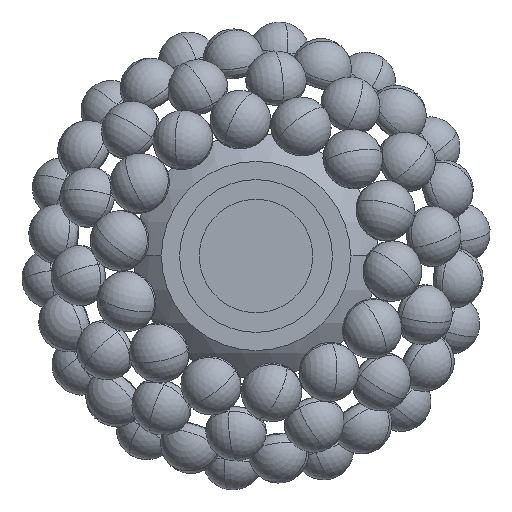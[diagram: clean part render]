
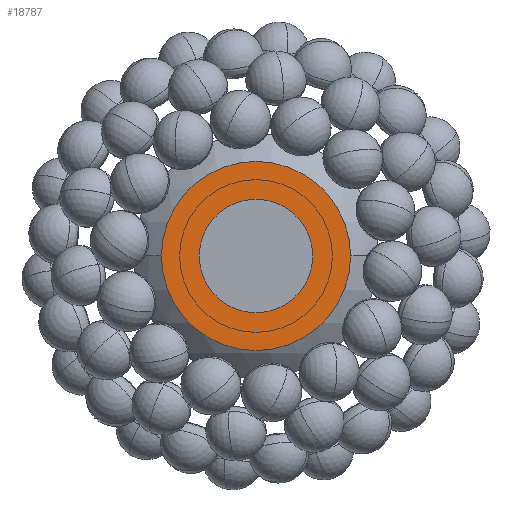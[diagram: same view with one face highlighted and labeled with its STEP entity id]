
A CAD part, front view. The second image highlights one B-rep face of the part: STEP entity #18787.
In plain terms, the highlighted planar face has unit normal (0, -1, 0).
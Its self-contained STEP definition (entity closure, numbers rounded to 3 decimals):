
#715 = CARTESIAN_POINT ( 'NONE',  ( -37.5, -2., 0. ) ) ;
#2823 = EDGE_CURVE ( 'NONE', #18981, #21993, #19080, .T. ) ;
#7017 = ORIENTED_EDGE ( 'NONE', *, *, #32875, .T. ) ;
#7278 = AXIS2_PLACEMENT_3D ( 'NONE', #715, #33391, #15383 ) ;
#7752 = CIRCLE ( 'NONE', #15378, 37.5 ) ;
#7811 = VERTEX_POINT ( 'NONE', #19628 ) ;
#9508 = VERTEX_POINT ( 'NONE', #33926 ) ;
#9578 = ORIENTED_EDGE ( 'NONE', *, *, #2823, .F. ) ;
#10859 = DIRECTION ( 'NONE',  ( 0., 1., 0. ) ) ;
#11588 = CIRCLE ( 'NONE', #16657, 62.5 ) ;
#14395 = FACE_OUTER_BOUND ( 'NONE', #19142, .T. ) ;
#14604 = EDGE_CURVE ( 'NONE', #21993, #18981, #11588, .T. ) ;
#15116 = CARTESIAN_POINT ( 'NONE',  ( 0., -2., 0. ) ) ;
#15378 = AXIS2_PLACEMENT_3D ( 'NONE', #32824, #22944, #30291 ) ;
#15383 = DIRECTION ( 'NONE',  ( 0., 0., 1. ) ) ;
#15729 = CARTESIAN_POINT ( 'NONE',  ( 0., -2., -62.5 ) ) ;
#15917 = EDGE_LOOP ( 'NONE', ( #7017, #30582 ) ) ;
#16657 = AXIS2_PLACEMENT_3D ( 'NONE', #27227, #35565, #24212 ) ;
#18787 = ADVANCED_FACE ( 'NONE', ( #14395, #24446 ), #21286, .F. ) ;
#18981 = VERTEX_POINT ( 'NONE', #15729 ) ;
#19080 = CIRCLE ( 'NONE', #26671, 62.5 ) ;
#19142 = EDGE_LOOP ( 'NONE', ( #38809, #9578 ) ) ;
#19628 = CARTESIAN_POINT ( 'NONE',  ( 0., -2., -37.5 ) ) ;
#21058 = CARTESIAN_POINT ( 'NONE',  ( 0., -2., 62.5 ) ) ;
#21286 = PLANE ( 'NONE',  #7278 ) ;
#21993 = VERTEX_POINT ( 'NONE', #21058 ) ;
#22737 = DIRECTION ( 'NONE',  ( 0., 0., 1. ) ) ;
#22944 = DIRECTION ( 'NONE',  ( 0., 1., 0. ) ) ;
#24212 = DIRECTION ( 'NONE',  ( 0., 0., 1. ) ) ;
#24446 = FACE_BOUND ( 'NONE', #15917, .T. ) ;
#25944 = CARTESIAN_POINT ( 'NONE',  ( 0., -2., 0. ) ) ;
#26671 = AXIS2_PLACEMENT_3D ( 'NONE', #15116, #30586, #33916 ) ;
#27227 = CARTESIAN_POINT ( 'NONE',  ( 0., -2., 0. ) ) ;
#29483 = CIRCLE ( 'NONE', #38943, 37.5 ) ;
#30291 = DIRECTION ( 'NONE',  ( 0., 0., 1. ) ) ;
#30582 = ORIENTED_EDGE ( 'NONE', *, *, #31870, .T. ) ;
#30586 = DIRECTION ( 'NONE',  ( 0., 1., 0. ) ) ;
#31870 = EDGE_CURVE ( 'NONE', #7811, #9508, #7752, .T. ) ;
#32824 = CARTESIAN_POINT ( 'NONE',  ( 0., -2., 0. ) ) ;
#32875 = EDGE_CURVE ( 'NONE', #9508, #7811, #29483, .T. ) ;
#33391 = DIRECTION ( 'NONE',  ( 0., 1., 0. ) ) ;
#33916 = DIRECTION ( 'NONE',  ( 0., 0., 1. ) ) ;
#33926 = CARTESIAN_POINT ( 'NONE',  ( 0., -2., 37.5 ) ) ;
#35565 = DIRECTION ( 'NONE',  ( 0., 1., 0. ) ) ;
#38809 = ORIENTED_EDGE ( 'NONE', *, *, #14604, .F. ) ;
#38943 = AXIS2_PLACEMENT_3D ( 'NONE', #25944, #10859, #22737 ) ;
